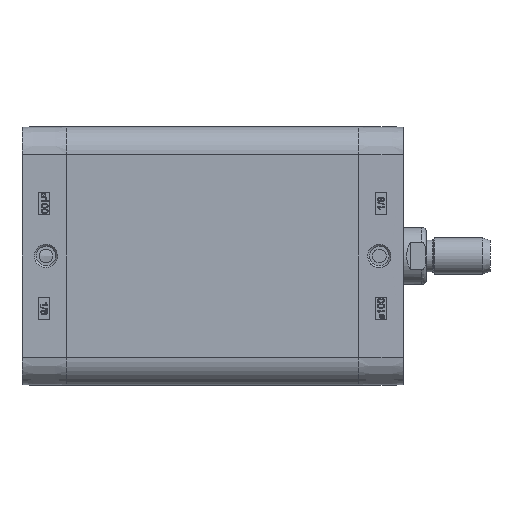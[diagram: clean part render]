
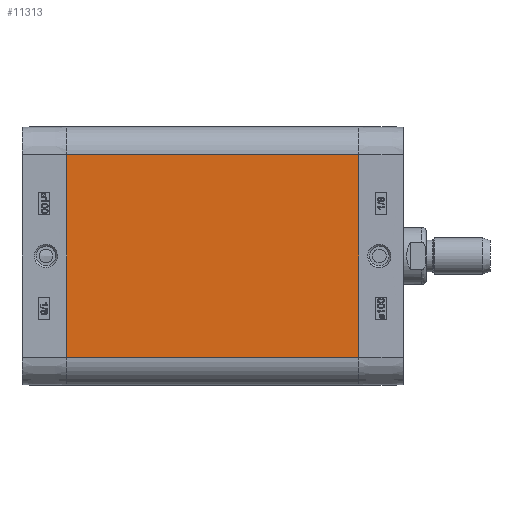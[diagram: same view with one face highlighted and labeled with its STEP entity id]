
A CAD part, left-side view. The second image highlights one B-rep face of the part: STEP entity #11313.
In plain terms, the highlighted planar face has unit normal (-1, 0, 0).
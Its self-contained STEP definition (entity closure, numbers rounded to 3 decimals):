
#5678=CARTESIAN_POINT('',(-56.65,-128.0,44.4));
#5679=VERTEX_POINT('',#5678);
#5686=CARTESIAN_POINT('',(-56.65,-128.0,-44.4));
#5687=VERTEX_POINT('',#5686);
#5688=CARTESIAN_POINT('',(-56.65,-128.0,-44.4));
#5689=DIRECTION('',(0.0,0.0,1.0));
#5690=VECTOR('',#5689,88.8);
#5691=LINE('',#5688,#5690);
#5692=EDGE_CURVE('',#5687,#5679,#5691,.T.);
#11271=CARTESIAN_POINT('',(-56.65,0.0,-44.4));
#11272=VERTEX_POINT('',#11271);
#11273=CARTESIAN_POINT('',(-56.65,0.0,-44.4));
#11274=DIRECTION('',(0.0,-1.0,0.0));
#11275=VECTOR('',#11274,128.0);
#11276=LINE('',#11273,#11275);
#11277=EDGE_CURVE('',#11272,#5687,#11276,.T.);
#11290=CARTESIAN_POINT('',(-56.65,0.0,-44.4));
#11291=DIRECTION('',(-1.0,0.0,0.0));
#11292=DIRECTION('',(0.0,0.0,1.0));
#11293=AXIS2_PLACEMENT_3D('',#11290,#11291,#11292);
#11294=PLANE('',#11293);
#11295=ORIENTED_EDGE('',*,*,#5692,.T.);
#11296=CARTESIAN_POINT('',(-56.65,0.0,44.4));
#11297=VERTEX_POINT('',#11296);
#11298=CARTESIAN_POINT('',(-56.65,0.0,44.4));
#11299=DIRECTION('',(0.0,-1.0,0.0));
#11300=VECTOR('',#11299,128.0);
#11301=LINE('',#11298,#11300);
#11302=EDGE_CURVE('',#11297,#5679,#11301,.T.);
#11303=ORIENTED_EDGE('',*,*,#11302,.F.);
#11304=CARTESIAN_POINT('',(-56.65,0.0,-44.4));
#11305=DIRECTION('',(0.0,0.0,1.0));
#11306=VECTOR('',#11305,88.8);
#11307=LINE('',#11304,#11306);
#11308=EDGE_CURVE('',#11272,#11297,#11307,.T.);
#11309=ORIENTED_EDGE('',*,*,#11308,.F.);
#11310=ORIENTED_EDGE('',*,*,#11277,.T.);
#11311=EDGE_LOOP('',(#11295,#11303,#11309,#11310));
#11312=FACE_OUTER_BOUND('',#11311,.T.);
#11313=ADVANCED_FACE('',(#11312),#11294,.T.);
